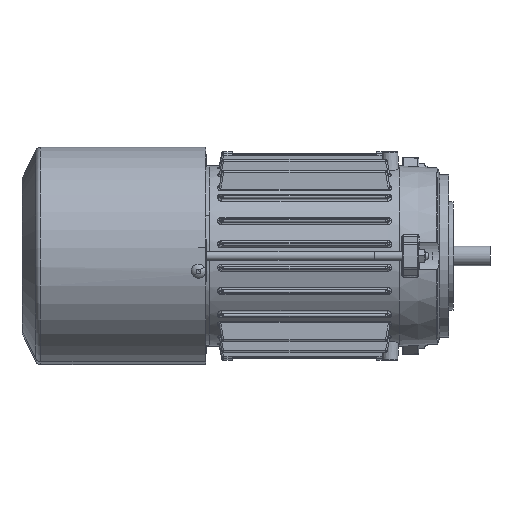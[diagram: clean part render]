
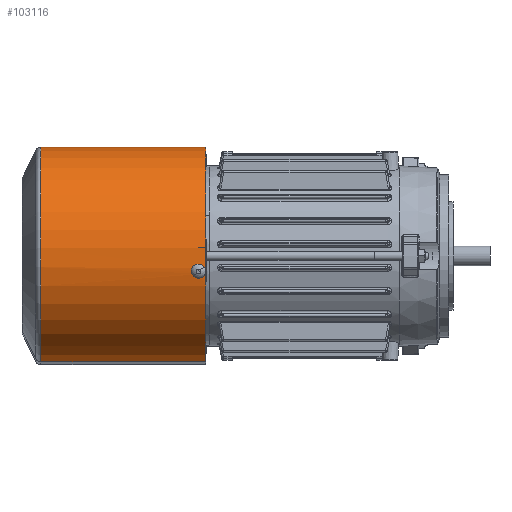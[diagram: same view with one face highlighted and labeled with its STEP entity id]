
A CAD part, front view. The second image highlights one B-rep face of the part: STEP entity #103116.
In plain terms, the highlighted cylindrical face has radius 60.5 mm (diameter 121 mm), a partial arc.
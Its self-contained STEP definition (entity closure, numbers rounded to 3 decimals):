
#2897 = CARTESIAN_POINT ( 'NONE',  ( 21.181, 96.781, 56.671 ) ) ;
#3250 = CARTESIAN_POINT ( 'NONE',  ( 23.883, 96.492, 55.587 ) ) ;
#6561 = CARTESIAN_POINT ( 'NONE',  ( 23.59, 99.735, 55.711 ) ) ;
#6916 = CARTESIAN_POINT ( 'NONE',  ( 21.434, 99.507, 56.576 ) ) ;
#8024 = CARTESIAN_POINT ( 'NONE',  ( 60.5, 10.474, 0. ) ) ;
#9475 = VERTEX_POINT ( 'NONE', #38570 ) ;
#9539 = DIRECTION ( 'NONE',  ( -1., 0., 0. ) ) ;
#11286 = CARTESIAN_POINT ( 'NONE',  ( 21.519, 96.401, 56.544 ) ) ;
#11664 = CARTESIAN_POINT ( 'NONE',  ( 24.13, 96.78, 55.48 ) ) ;
#12519 = DIRECTION ( 'NONE',  ( 0., 1., 0. ) ) ;
#14924 = CARTESIAN_POINT ( 'NONE',  ( 23.262, 99.897, 55.849 ) ) ;
#15272 = CARTESIAN_POINT ( 'NONE',  ( 21.183, 99.222, 56.67 ) ) ;
#16493 = LINE ( 'NONE', #96710, #55918 ) ;
#18126 = DIRECTION ( 'NONE',  ( 0., 1., 0. ) ) ;
#19613 = CARTESIAN_POINT ( 'NONE',  ( 22.176, 96.053, 56.29 ) ) ;
#19970 = CARTESIAN_POINT ( 'NONE',  ( 24.32, 97.114, 55.396 ) ) ;
#21552 = AXIS2_PLACEMENT_3D ( 'NONE', #88755, #38422, #97142 ) ;
#22478 = EDGE_CURVE ( 'NONE', #60802, #107841, #16493, .T. ) ;
#23300 = CARTESIAN_POINT ( 'NONE',  ( 22.908, 99.987, 55.996 ) ) ;
#23667 = CARTESIAN_POINT ( 'NONE',  ( 20.988, 98.888, 56.743 ) ) ;
#27574 = CARTESIAN_POINT ( 'NONE',  ( -60.5, 10.474, 0. ) ) ;
#28063 = CARTESIAN_POINT ( 'NONE',  ( 22.784, 96., 56.046 ) ) ;
#28434 = CARTESIAN_POINT ( 'NONE',  ( 24.447, 97.481, 55.341 ) ) ;
#31757 = CARTESIAN_POINT ( 'NONE',  ( 22.543, 100., 56.143 ) ) ;
#32107 = CARTESIAN_POINT ( 'NONE',  ( 20.797, 98.264, 56.813 ) ) ;
#36146 = CARTESIAN_POINT ( 'NONE',  ( 20.809, 97.738, 56.809 ) ) ;
#36517 = CARTESIAN_POINT ( 'NONE',  ( 23.144, 96.064, 55.898 ) ) ;
#36884 = CARTESIAN_POINT ( 'NONE',  ( 24.506, 97.869, 55.315 ) ) ;
#36911 = ORIENTED_EDGE ( 'NONE', *, *, #107561, .T. ) ;
#38422 = DIRECTION ( 'NONE',  ( 0., 1., 0. ) ) ;
#38570 = CARTESIAN_POINT ( 'NONE',  ( -60.5, 102., 0. ) ) ;
#39779 = CARTESIAN_POINT ( 'NONE',  ( 24.458, 98.524, 55.336 ) ) ;
#40149 = CARTESIAN_POINT ( 'NONE',  ( 22.184, 99.937, 56.286 ) ) ;
#41183 = VERTEX_POINT ( 'NONE', #103370 ) ;
#41540 = EDGE_CURVE ( 'NONE', #41183, #44094, #57262, .T. ) ;
#41943 = CIRCLE ( 'NONE', #98368, 60.5 ) ;
#42656 = CARTESIAN_POINT ( 'NONE',  ( 24.506, 98., 55.315 ) ) ;
#42822 = EDGE_LOOP ( 'NONE', ( #36911, #72080, #100109, #88602 ) ) ;
#43996 = LINE ( 'NONE', #62762, #88766 ) ;
#44094 = VERTEX_POINT ( 'NONE', #42656 ) ;
#44537 = CARTESIAN_POINT ( 'NONE',  ( 20.893, 97.355, 56.778 ) ) ;
#44897 = CARTESIAN_POINT ( 'NONE',  ( 23.482, 96.202, 55.757 ) ) ;
#48294 = CARTESIAN_POINT ( 'NONE',  ( 24.139, 99.229, 55.476 ) ) ;
#48558 = FACE_OUTER_BOUND ( 'NONE', #42822, .T. ) ;
#48663 = CARTESIAN_POINT ( 'NONE',  ( 21.84, 99.798, 56.42 ) ) ;
#53055 = CARTESIAN_POINT ( 'NONE',  ( 21.045, 96.998, 56.722 ) ) ;
#53426 = CARTESIAN_POINT ( 'NONE',  ( 23.79, 96.409, 55.626 ) ) ;
#54698 = ORIENTED_EDGE ( 'NONE', *, *, #41540, .F. ) ;
#55918 = VECTOR ( 'NONE', #71876, 1000. ) ;
#56744 = CARTESIAN_POINT ( 'NONE',  ( 23.791, 99.59, 55.626 ) ) ;
#57120 = CARTESIAN_POINT ( 'NONE',  ( 21.53, 99.592, 56.54 ) ) ;
#57262 = B_SPLINE_CURVE_WITH_KNOTS ( 'NONE', 3,
 ( #78052, #86466, #36146, #94869, #44537, #103229, #53055, #2897, #61478, #11286, #70005, #19613, #78417, #28063, #86830, #36517, #95226, #44897, #103593, #53426, #3250, #61858, #11664, #70372, #19970, #78783, #28434, #87206, #36884, #95600 ),
 .UNSPECIFIED., .F., .F.,
 ( 4, 2, 2, 2, 2, 2, 2, 2, 2, 2, 2, 2, 2, 2, 4 ),
 ( 0., 0., 0.001, 0.001, 0.002, 0.002, 0.003, 0.004, 0.004, 0.004, 0.005, 0.005, 0.005, 0.006, 0.006 ),
 .UNSPECIFIED. ) ;
#58938 = CARTESIAN_POINT ( 'NONE',  ( 60.5, 102., 0. ) ) ;
#59370 = CARTESIAN_POINT ( 'NONE',  ( 0., 139.861, 0. ) ) ;
#60802 = VERTEX_POINT ( 'NONE', #8024 ) ;
#61478 = CARTESIAN_POINT ( 'NONE',  ( 21.26, 96.678, 56.642 ) ) ;
#61858 = CARTESIAN_POINT ( 'NONE',  ( 24.054, 96.679, 55.513 ) ) ;
#62762 = CARTESIAN_POINT ( 'NONE',  ( -60.5, 139.861, 0. ) ) ;
#63542 = EDGE_CURVE ( 'NONE', #44094, #41183, #104468, .T. ) ;
#65196 = CARTESIAN_POINT ( 'NONE',  ( 23.485, 99.797, 55.756 ) ) ;
#65559 = CARTESIAN_POINT ( 'NONE',  ( 21.261, 99.323, 56.641 ) ) ;
#66280 = EDGE_CURVE ( 'NONE', #92115, #9475, #43996, .T. ) ;
#67837 = CIRCLE ( 'NONE', #21552, 60.5 ) ;
#68232 = DIRECTION ( 'NONE',  ( 0., 1., 0. ) ) ;
#68284 = CYLINDRICAL_SURFACE ( 'NONE', #100584, 60.5 ) ;
#68481 = CARTESIAN_POINT ( 'NONE',  ( 0., 102., 0. ) ) ;
#70005 = CARTESIAN_POINT ( 'NONE',  ( 21.728, 96.252, 56.464 ) ) ;
#70372 = CARTESIAN_POINT ( 'NONE',  ( 24.263, 96.997, 55.422 ) ) ;
#70966 = FACE_BOUND ( 'NONE', #79568, .T. ) ;
#71876 = DIRECTION ( 'NONE',  ( 0., 1., 0. ) ) ;
#72080 = ORIENTED_EDGE ( 'NONE', *, *, #22478, .T. ) ;
#73714 = CARTESIAN_POINT ( 'NONE',  ( 23.144, 99.936, 55.898 ) ) ;
#74078 = CARTESIAN_POINT ( 'NONE',  ( 21.046, 99.004, 56.721 ) ) ;
#76913 = DIRECTION ( 'NONE',  ( -1., 0., 0. ) ) ;
#78052 = CARTESIAN_POINT ( 'NONE',  ( 20.797, 98., 56.813 ) ) ;
#78417 = CARTESIAN_POINT ( 'NONE',  ( 22.421, 96., 56.193 ) ) ;
#78783 = CARTESIAN_POINT ( 'NONE',  ( 24.412, 97.356, 55.356 ) ) ;
#79568 = EDGE_LOOP ( 'NONE', ( #54698, #85920 ) ) ;
#81732 = CARTESIAN_POINT ( 'NONE',  ( 24.506, 98., 55.315 ) ) ;
#82084 = CARTESIAN_POINT ( 'NONE',  ( 22.788, 100., 56.045 ) ) ;
#82457 = CARTESIAN_POINT ( 'NONE',  ( 20.847, 98.527, 56.795 ) ) ;
#85569 = EDGE_CURVE ( 'NONE', #9475, #107841, #41943, .T. ) ;
#85920 = ORIENTED_EDGE ( 'NONE', *, *, #63542, .F. ) ;
#86466 = CARTESIAN_POINT ( 'NONE',  ( 20.797, 97.868, 56.813 ) ) ;
#86830 = CARTESIAN_POINT ( 'NONE',  ( 22.907, 96.013, 55.996 ) ) ;
#87206 = CARTESIAN_POINT ( 'NONE',  ( 24.494, 97.737, 55.32 ) ) ;
#88602 = ORIENTED_EDGE ( 'NONE', *, *, #66280, .F. ) ;
#88755 = CARTESIAN_POINT ( 'NONE',  ( 0., 10.474, 0. ) ) ;
#88766 = VECTOR ( 'NONE', #12519, 1000. ) ;
#90130 = CARTESIAN_POINT ( 'NONE',  ( 24.506, 98.261, 55.315 ) ) ;
#90491 = CARTESIAN_POINT ( 'NONE',  ( 22.422, 99.987, 56.192 ) ) ;
#90860 = CARTESIAN_POINT ( 'NONE',  ( 20.797, 98., 56.813 ) ) ;
#92115 = VERTEX_POINT ( 'NONE', #27574 ) ;
#94869 = CARTESIAN_POINT ( 'NONE',  ( 20.857, 97.482, 56.791 ) ) ;
#95226 = CARTESIAN_POINT ( 'NONE',  ( 23.259, 96.102, 55.851 ) ) ;
#95600 = CARTESIAN_POINT ( 'NONE',  ( 24.506, 98., 55.315 ) ) ;
#96710 = CARTESIAN_POINT ( 'NONE',  ( 60.5, 139.861, 0. ) ) ;
#97142 = DIRECTION ( 'NONE',  ( -1., 0., 0. ) ) ;
#98368 = AXIS2_PLACEMENT_3D ( 'NONE', #68481, #18126, #76913 ) ;
#98531 = CARTESIAN_POINT ( 'NONE',  ( 24.275, 99.005, 55.416 ) ) ;
#98881 = CARTESIAN_POINT ( 'NONE',  ( 22.066, 99.898, 56.332 ) ) ;
#100109 = ORIENTED_EDGE ( 'NONE', *, *, #85569, .F. ) ;
#100584 = AXIS2_PLACEMENT_3D ( 'NONE', #59370, #68232, #9539 ) ;
#103116 = ADVANCED_FACE ( 'NONE', ( #70966, #48558 ), #68284, .T. ) ;
#103229 = CARTESIAN_POINT ( 'NONE',  ( 20.987, 97.113, 56.743 ) ) ;
#103370 = CARTESIAN_POINT ( 'NONE',  ( 20.797, 98., 56.813 ) ) ;
#103593 = CARTESIAN_POINT ( 'NONE',  ( 23.59, 96.265, 55.711 ) ) ;
#104468 = B_SPLINE_CURVE_WITH_KNOTS ( 'NONE', 3,
 ( #81732, #90130, #39779, #98531, #48294, #106908, #56744, #6561, #65196, #14924, #73714, #23300, #82084, #31757, #90491, #40149, #98881, #48663, #107266, #57120, #6916, #65559, #15272, #74078, #23667, #82457, #32107, #90860 ),
 .UNSPECIFIED., .F., .F.,
 ( 4, 2, 2, 2, 2, 2, 2, 2, 2, 2, 2, 2, 2, 4 ),
 ( 0.006, 0.007, 0.008, 0.008, 0.009, 0.009, 0.009, 0.01, 0.01, 0.011, 0.011, 0.011, 0.012, 0.013 ),
 .UNSPECIFIED. ) ;
#106908 = CARTESIAN_POINT ( 'NONE',  ( 23.885, 99.505, 55.586 ) ) ;
#107266 = CARTESIAN_POINT ( 'NONE',  ( 21.733, 99.737, 56.462 ) ) ;
#107561 = EDGE_CURVE ( 'NONE', #92115, #60802, #67837, .T. ) ;
#107841 = VERTEX_POINT ( 'NONE', #58938 ) ;
